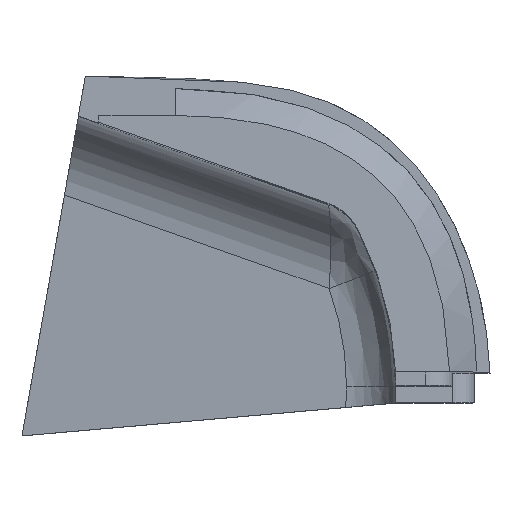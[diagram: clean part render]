
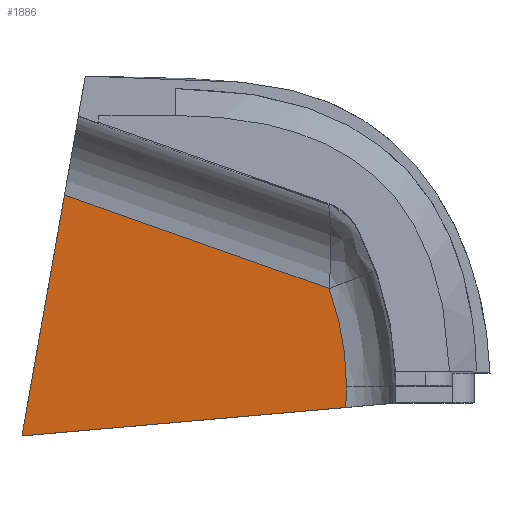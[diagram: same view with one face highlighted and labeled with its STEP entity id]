
A CAD part, top view. The second image highlights one B-rep face of the part: STEP entity #1886.
In plain terms, the highlighted planar face has unit normal (-0.087, 0, 0.996).
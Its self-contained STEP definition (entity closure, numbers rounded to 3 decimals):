
#34 = LINE ( 'NONE', #1508, #1272 ) ;
#168 = DIRECTION ( 'NONE',  ( 0.174, 0.985, 0.015 ) ) ;
#234 = CARTESIAN_POINT ( 'NONE',  ( -16.847, -1.81, -33.32 ) ) ;
#332 = VECTOR ( 'NONE', #1482, 1000. ) ;
#354 = DIRECTION ( 'NONE',  ( 0.992, 0.087, 0.087 ) ) ;
#357 = CARTESIAN_POINT ( 'NONE',  ( -4.826, -0.254, -32.268 ) ) ;
#374 = VERTEX_POINT ( 'NONE', #234 ) ;
#387 = CARTESIAN_POINT ( 'NONE',  ( -4.826, 1.247, -32.268 ) ) ;
#493 = DIRECTION ( 'NONE',  ( -0.996, 0., -0.087 ) ) ;
#502 = PLANE ( 'NONE',  #1926 ) ;
#532 = LINE ( 'NONE', #1302, #1549 ) ;
#542 = CARTESIAN_POINT ( 'NONE',  ( -5.471, 3.648, -32.324 ) ) ;
#545 = VERTEX_POINT ( 'NONE', #1056 ) ;
#555 = ORIENTED_EDGE ( 'NONE', *, *, #928, .T. ) ;
#653 = CARTESIAN_POINT ( 'NONE',  ( -6.452, 3.994, -32.41 ) ) ;
#686 = CARTESIAN_POINT ( 'NONE',  ( -15.274, 7.111, -33.182 ) ) ;
#689 = CARTESIAN_POINT ( 'NONE',  ( -5.471, 3.648, -32.324 ) ) ;
#878 = ORIENTED_EDGE ( 'NONE', *, *, #1338, .T. ) ;
#890 = EDGE_CURVE ( 'NONE', #374, #1673, #34, .T. ) ;
#893 = EDGE_LOOP ( 'NONE', ( #555, #1373, #878, #2023, #1836 ) ) ;
#909 = EDGE_CURVE ( 'NONE', #1326, #1673, #1985, .T. ) ;
#928 = EDGE_CURVE ( 'NONE', #374, #545, #532, .T. ) ;
#952 = VERTEX_POINT ( 'NONE', #1833 ) ;
#979 = CARTESIAN_POINT ( 'NONE',  ( -4.835, -0.508, -32.269 ) ) ;
#1017 = CARTESIAN_POINT ( 'NONE',  ( -4.826, 0., -32.268 ) ) ;
#1049 = CARTESIAN_POINT ( 'NONE',  ( -5.043, 2.476, -32.287 ) ) ;
#1056 = CARTESIAN_POINT ( 'NONE',  ( -4.853, -0.761, -32.27 ) ) ;
#1134 =( BOUNDED_CURVE ( )  B_SPLINE_CURVE ( 3, ( #1340, #387, #1049, #689 ),
 .UNSPECIFIED., .F., .F. ) 
 B_SPLINE_CURVE_WITH_KNOTS ( ( 4, 4 ),
 ( 0., 0.35 ),
 .UNSPECIFIED. ) 
 CURVE ( )  GEOMETRIC_REPRESENTATION_ITEM ( )  RATIONAL_B_SPLINE_CURVE ( ( 1., 0.99, 0.99, 1. ) ) 
 REPRESENTATION_ITEM ( '' )  );
#1272 = VECTOR ( 'NONE', #168, 1000. ) ;
#1302 = CARTESIAN_POINT ( 'NONE',  ( -2.298, -0.537, -32.047 ) ) ;
#1326 = VERTEX_POINT ( 'NONE', #542 ) ;
#1333 = CARTESIAN_POINT ( 'NONE',  ( -3.014, 13.801, -32.109 ) ) ;
#1338 = EDGE_CURVE ( 'NONE', #952, #1326, #1134, .T. ) ;
#1340 = CARTESIAN_POINT ( 'NONE',  ( -4.826, 0., -32.268 ) ) ;
#1373 = ORIENTED_EDGE ( 'NONE', *, *, #1959, .T. ) ;
#1474 = FACE_OUTER_BOUND ( 'NONE', #893, .T. ) ;
#1482 = DIRECTION ( 'NONE',  ( -0.94, 0.332, -0.082 ) ) ;
#1508 = CARTESIAN_POINT ( 'NONE',  ( -14.506, 11.464, -33.115 ) ) ;
#1549 = VECTOR ( 'NONE', #354, 1000. ) ;
#1576 =( BOUNDED_CURVE ( )  B_SPLINE_CURVE ( 3, ( #2003, #979, #357, #1017 ),
 .UNSPECIFIED., .F., .F. ) 
 B_SPLINE_CURVE_WITH_KNOTS ( ( 4, 4 ),
 ( 6.212, 6.283 ),
 .UNSPECIFIED. ) 
 CURVE ( )  GEOMETRIC_REPRESENTATION_ITEM ( )  RATIONAL_B_SPLINE_CURVE ( ( 1., 1., 1., 1. ) ) 
 REPRESENTATION_ITEM ( '' )  );
#1673 = VERTEX_POINT ( 'NONE', #686 ) ;
#1833 = CARTESIAN_POINT ( 'NONE',  ( -4.826, 0., -32.268 ) ) ;
#1836 = ORIENTED_EDGE ( 'NONE', *, *, #890, .F. ) ;
#1886 = ADVANCED_FACE ( 'NONE', ( #1474 ), #502, .F. ) ;
#1926 = AXIS2_PLACEMENT_3D ( 'NONE', #1333, #1987, #493 ) ;
#1959 = EDGE_CURVE ( 'NONE', #545, #952, #1576, .T. ) ;
#1985 = LINE ( 'NONE', #653, #332 ) ;
#1987 = DIRECTION ( 'NONE',  ( 0.087, 0., -0.996 ) ) ;
#2003 = CARTESIAN_POINT ( 'NONE',  ( -4.853, -0.761, -32.27 ) ) ;
#2023 = ORIENTED_EDGE ( 'NONE', *, *, #909, .T. ) ;
